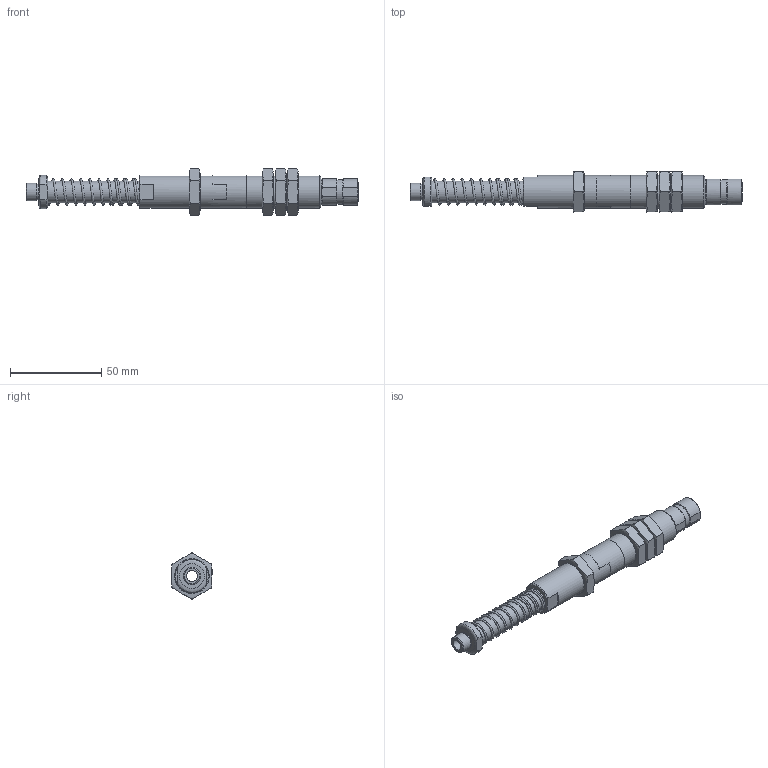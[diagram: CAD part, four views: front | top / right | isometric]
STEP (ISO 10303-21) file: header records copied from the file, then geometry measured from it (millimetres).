
FILE_DESCRIPTION( ( 'Unknown' ), '1' );
FILE_NAME( 'C:/Documents and Settings/Owner/官帕 拳搁/LEVEL SPRING HOMEPAGE/L18 Series/L1870TS/L1870TS.stp', 'Unknown', ( 'Unknown' ), ( 'Unknown' ), 'PSStep 10.0', 'Unknown', ' ' );
FILE_SCHEMA( ( 'AUTOMOTIVE_DESIGN { 1 0 10303 214 1 1 1 1 }' ) );
Length unit declared in the file: millimetre
Products named in the file (7): Assem1; SHA; NIPPLE; HOU; UPPER; NUT(M18XP1); spring
Bounding box: 182 x 22.14 x 25.4 mm (x, y, z)
Surface area: 46234.2 mm2 (no closed solid volume)
Topology: 0 solids, 178 shells, 178 faces, 678 edges, 602 vertices
Faces by surface type: plane 86, cylinder 48, cone 26, revolution 16, bspline 2
Full cylindrical faces by diameter (mm): 6 x4, 8.2 x2, 8.5 x4, 8.8 x2, 9.5 x4, 9.8 x6, 11.9 x2, 12.1 x2, 12.2 x2, 13.5 x2, 18 x6
Entity records: 6381 total; most frequent: CARTESIAN_POINT 3602, DIRECTION 426, ORIENTED_EDGE 240, EDGE_CURVE 240, VERTEX_POINT 240, AXIS2_PLACEMENT_3D 184, FACE_BOUND 130, EDGE_LOOP 130
